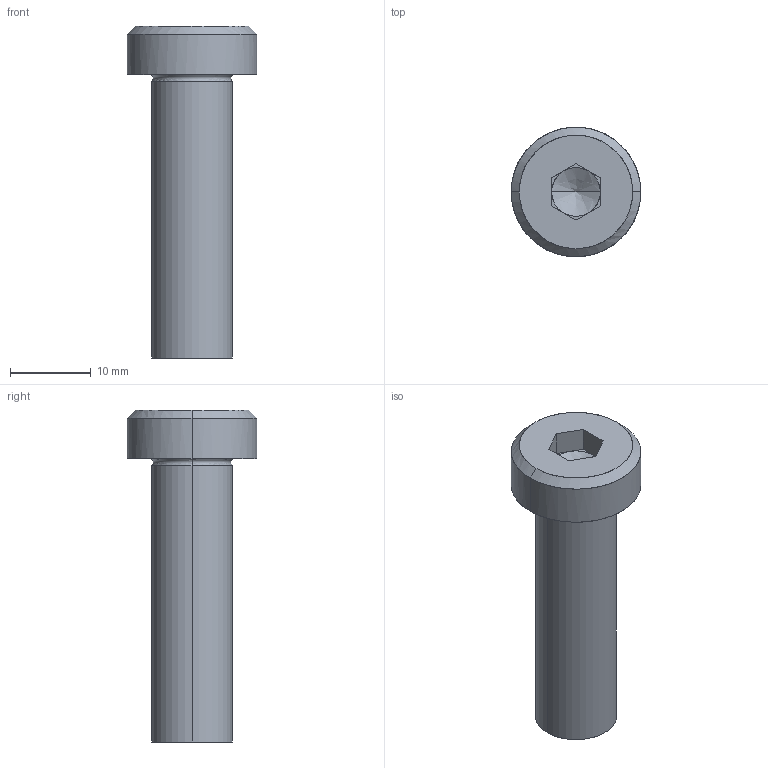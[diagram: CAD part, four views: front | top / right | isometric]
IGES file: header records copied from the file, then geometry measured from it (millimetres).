
Global section: file name: E:\UnigraphicsGraphicData\MISUMI_PRESS-PARTS\IGES\3d_sbtcn10-35_05127_r00.igs; native system: NX V5.0; preprocessor: UGS NX IGES V5.0; author: MISUMI; date: 20110105.162452; units: millimetre
Bounding box: 16 x 16 x 41 mm (x, y, z)
Surface area: 2158.3 mm2 (no closed solid volume)
Topology: 0 solids, 0 shells, 34 faces, 180 edges, 176 vertices
Faces by surface type: bspline 34
